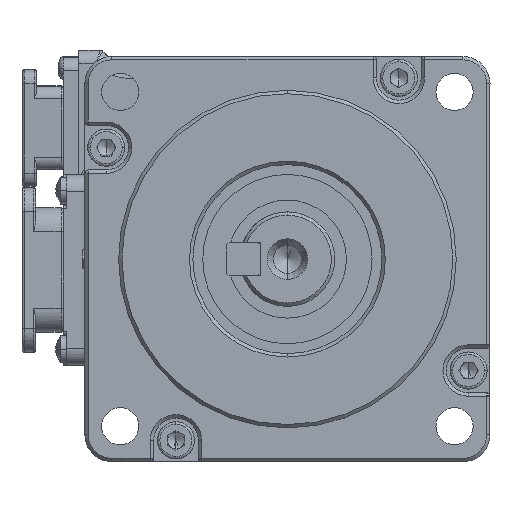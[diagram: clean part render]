
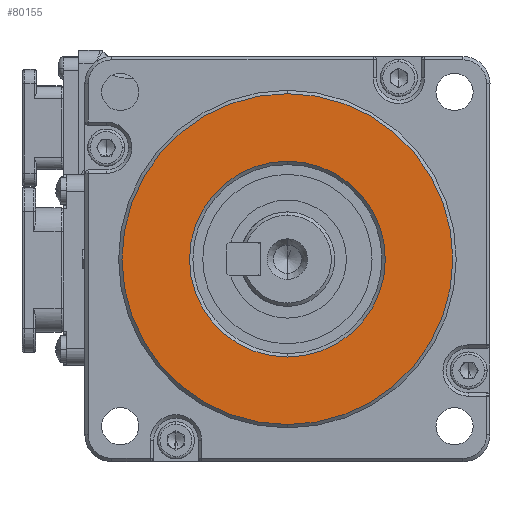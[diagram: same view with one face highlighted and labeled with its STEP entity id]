
A CAD part, left-side view. The second image highlights one B-rep face of the part: STEP entity #80155.
In plain terms, the highlighted planar face has unit normal (-1, 0, 0).
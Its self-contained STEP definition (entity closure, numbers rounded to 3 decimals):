
#143 = CIRCLE ( 'NONE', #72300, 24.5 ) ;
#4542 = DIRECTION ( 'NONE',  ( 0., 0., -1. ) ) ;
#6169 = EDGE_CURVE ( 'NONE', #50819, #65234, #49203, .T. ) ;
#7442 = DIRECTION ( 'NONE',  ( 1., 0., 0. ) ) ;
#12026 = AXIS2_PLACEMENT_3D ( 'NONE', #131207, #7442, #76655 ) ;
#17433 = ORIENTED_EDGE ( 'NONE', *, *, #6169, .F. ) ;
#18641 = ORIENTED_EDGE ( 'NONE', *, *, #33915, .F. ) ;
#20841 = CIRCLE ( 'NONE', #132446, 14.5 ) ;
#22121 = CARTESIAN_POINT ( 'NONE',  ( 23.104, 86.39, 128.965 ) ) ;
#23233 = DIRECTION ( 'NONE',  ( 0., 0., -1. ) ) ;
#23950 = DIRECTION ( 'NONE',  ( -1., 0., 0. ) ) ;
#33915 = EDGE_CURVE ( 'NONE', #133961, #141570, #20841, .T. ) ;
#40898 = AXIS2_PLACEMENT_3D ( 'NONE', #144180, #68404, #23233 ) ;
#41518 = PLANE ( 'NONE',  #40898 ) ;
#45362 = CIRCLE ( 'NONE', #126817, 14.5 ) ;
#46688 = DIRECTION ( 'NONE',  ( -1., 0., 0. ) ) ;
#49203 = CIRCLE ( 'NONE', #12026, 24.5 ) ;
#50819 = VERTEX_POINT ( 'NONE', #22121 ) ;
#56799 = ORIENTED_EDGE ( 'NONE', *, *, #57240, .F. ) ;
#57240 = EDGE_CURVE ( 'NONE', #141570, #133961, #45362, .T. ) ;
#57427 = DIRECTION ( 'NONE',  ( 0., 0., 1. ) ) ;
#59896 = CARTESIAN_POINT ( 'NONE',  ( 23.104, 86.39, 104.465 ) ) ;
#65234 = VERTEX_POINT ( 'NONE', #143029 ) ;
#65688 = CARTESIAN_POINT ( 'NONE',  ( 23.104, 86.39, 118.965 ) ) ;
#68404 = DIRECTION ( 'NONE',  ( 1., 0., 0. ) ) ;
#70245 = EDGE_CURVE ( 'NONE', #65234, #50819, #143, .T. ) ;
#72300 = AXIS2_PLACEMENT_3D ( 'NONE', #59896, #103669, #4542 ) ;
#76655 = DIRECTION ( 'NONE',  ( 0., 0., -1. ) ) ;
#78398 = ORIENTED_EDGE ( 'NONE', *, *, #70245, .F. ) ;
#80155 = ADVANCED_FACE ( 'NONE', ( #141293, #98370 ), #41518, .F. ) ;
#80194 = CARTESIAN_POINT ( 'NONE',  ( 23.104, 86.39, 104.465 ) ) ;
#81439 = EDGE_LOOP ( 'NONE', ( #18641, #56799 ) ) ;
#93156 = CARTESIAN_POINT ( 'NONE',  ( 23.104, 86.39, 104.465 ) ) ;
#98370 = FACE_BOUND ( 'NONE', #81439, .T. ) ;
#103669 = DIRECTION ( 'NONE',  ( 1., 0., 0. ) ) ;
#104214 = DIRECTION ( 'NONE',  ( 0., 0., 1. ) ) ;
#108860 = EDGE_LOOP ( 'NONE', ( #78398, #17433 ) ) ;
#111626 = CARTESIAN_POINT ( 'NONE',  ( 23.104, 86.39, 89.965 ) ) ;
#126817 = AXIS2_PLACEMENT_3D ( 'NONE', #80194, #46688, #104214 ) ;
#131207 = CARTESIAN_POINT ( 'NONE',  ( 23.104, 86.39, 104.465 ) ) ;
#132446 = AXIS2_PLACEMENT_3D ( 'NONE', #93156, #23950, #57427 ) ;
#133961 = VERTEX_POINT ( 'NONE', #65688 ) ;
#141293 = FACE_OUTER_BOUND ( 'NONE', #108860, .T. ) ;
#141570 = VERTEX_POINT ( 'NONE', #111626 ) ;
#143029 = CARTESIAN_POINT ( 'NONE',  ( 23.104, 86.39, 79.965 ) ) ;
#144180 = CARTESIAN_POINT ( 'NONE',  ( 23.104, 86.39, 104.465 ) ) ;
